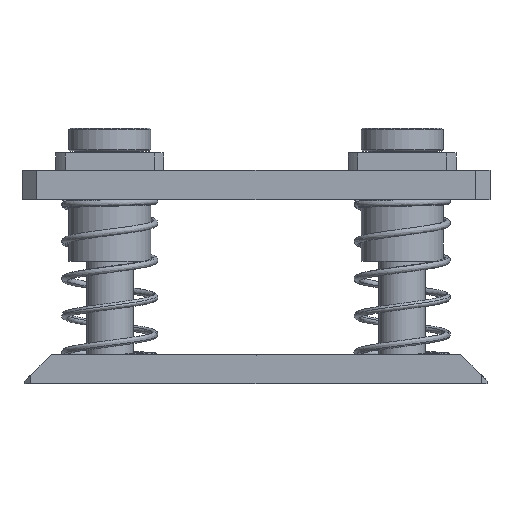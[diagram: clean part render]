
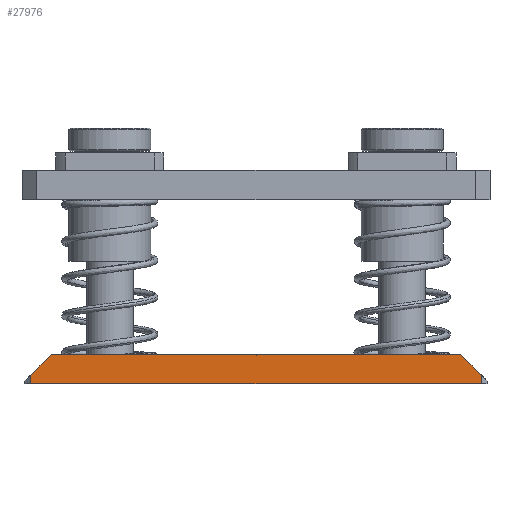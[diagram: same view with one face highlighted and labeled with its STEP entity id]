
A CAD part, front view. The second image highlights one B-rep face of the part: STEP entity #27976.
In plain terms, the highlighted planar face has unit normal (0, -1, 0).
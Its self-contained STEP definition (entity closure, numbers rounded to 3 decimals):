
#950 = VECTOR ( 'NONE', #17672, 1000. ) ;
#2446 = VERTEX_POINT ( 'NONE', #16059 ) ;
#2613 = CARTESIAN_POINT ( 'NONE',  ( 0., -80., 0. ) ) ;
#3821 = DIRECTION ( 'NONE',  ( -1., 0., 0. ) ) ;
#5087 = CARTESIAN_POINT ( 'NONE',  ( 77., -80., 0. ) ) ;
#5350 = ORIENTED_EDGE ( 'NONE', *, *, #33107, .F. ) ;
#5747 = CARTESIAN_POINT ( 'NONE',  ( 77., -80., -5. ) ) ;
#6391 = LINE ( 'NONE', #38377, #25521 ) ;
#6949 = LINE ( 'NONE', #7633, #36255 ) ;
#7521 = VECTOR ( 'NONE', #10820, 1000. ) ;
#7564 = EDGE_CURVE ( 'NONE', #14483, #41383, #6949, .T. ) ;
#7633 = CARTESIAN_POINT ( 'NONE',  ( -70., -80., 0. ) ) ;
#7793 = ORIENTED_EDGE ( 'NONE', *, *, #48084, .T. ) ;
#7812 = ORIENTED_EDGE ( 'NONE', *, *, #7564, .T. ) ;
#8920 = DIRECTION ( 'NONE',  ( 0., -1., 0. ) ) ;
#9248 = CARTESIAN_POINT ( 'NONE',  ( -0.075, -80., -0.075 ) ) ;
#9594 = DIRECTION ( 'NONE',  ( 0., 0., 1. ) ) ;
#9794 = EDGE_CURVE ( 'NONE', #15543, #18309, #30643, .T. ) ;
#10820 = DIRECTION ( 'NONE',  ( -0.707, 0., 0.707 ) ) ;
#11111 = LINE ( 'NONE', #14284, #49383 ) ;
#14284 = CARTESIAN_POINT ( 'NONE',  ( 0., -80., 0. ) ) ;
#14483 = VERTEX_POINT ( 'NONE', #16869 ) ;
#14868 = CARTESIAN_POINT ( 'NONE',  ( -0.15, -80., 0. ) ) ;
#15543 = VERTEX_POINT ( 'NONE', #15577 ) ;
#15577 = CARTESIAN_POINT ( 'NONE',  ( 77., -80., -10. ) ) ;
#16059 = CARTESIAN_POINT ( 'NONE',  ( 70., -80., 0. ) ) ;
#16548 = VECTOR ( 'NONE', #22867, 1000. ) ;
#16721 = CARTESIAN_POINT ( 'NONE',  ( -77., -80., -10. ) ) ;
#16869 = CARTESIAN_POINT ( 'NONE',  ( -70., -80., 0. ) ) ;
#17046 = ORIENTED_EDGE ( 'NONE', *, *, #18769, .F. ) ;
#17672 = DIRECTION ( 'NONE',  ( -1., 0., 0. ) ) ;
#17765 = LINE ( 'NONE', #49626, #16548 ) ;
#18309 = VERTEX_POINT ( 'NONE', #18612 ) ;
#18612 = CARTESIAN_POINT ( 'NONE',  ( 77., -80., -7. ) ) ;
#18769 = EDGE_CURVE ( 'NONE', #21783, #46020, #19587, .T. ) ;
#19587 = LINE ( 'NONE', #9248, #41138 ) ;
#20502 = VECTOR ( 'NONE', #9594, 1000. ) ;
#21783 = VERTEX_POINT ( 'NONE', #14868 ) ;
#22867 = DIRECTION ( 'NONE',  ( 0., 0., 1. ) ) ;
#25476 = LINE ( 'NONE', #37545, #7521 ) ;
#25521 = VECTOR ( 'NONE', #42268, 1000. ) ;
#26920 = CARTESIAN_POINT ( 'NONE',  ( 0.15, -80., 0. ) ) ;
#26997 = ORIENTED_EDGE ( 'NONE', *, *, #40482, .T. ) ;
#27550 = ORIENTED_EDGE ( 'NONE', *, *, #9794, .T. ) ;
#27789 = CARTESIAN_POINT ( 'NONE',  ( -77., -80., -7. ) ) ;
#27955 = PLANE ( 'NONE',  #38434 ) ;
#27976 = ADVANCED_FACE ( 'NONE', ( #43022 ), #27955, .T. ) ;
#29783 = ORIENTED_EDGE ( 'NONE', *, *, #39460, .F. ) ;
#30047 = EDGE_LOOP ( 'NONE', ( #39812, #26997, #32074, #17046, #7793, #7812, #29783, #5350, #27550 ) ) ;
#30643 = LINE ( 'NONE', #5747, #20502 ) ;
#31075 = CARTESIAN_POINT ( 'NONE',  ( 0., -80., -0.15 ) ) ;
#31417 = EDGE_CURVE ( 'NONE', #18309, #2446, #25476, .T. ) ;
#32074 = ORIENTED_EDGE ( 'NONE', *, *, #39478, .F. ) ;
#32682 = LINE ( 'NONE', #2613, #950 ) ;
#33107 = EDGE_CURVE ( 'NONE', #15543, #45048, #48748, .T. ) ;
#35650 = DIRECTION ( 'NONE',  ( -1., 0., 0. ) ) ;
#35975 = DIRECTION ( 'NONE',  ( 0.707, 0., -0.707 ) ) ;
#36255 = VECTOR ( 'NONE', #45771, 1000. ) ;
#37545 = CARTESIAN_POINT ( 'NONE',  ( 77., -80., -7. ) ) ;
#38377 = CARTESIAN_POINT ( 'NONE',  ( 0.075, -80., -0.075 ) ) ;
#38434 = AXIS2_PLACEMENT_3D ( 'NONE', #5087, #8920, #35650 ) ;
#38525 = VECTOR ( 'NONE', #3821, 1000. ) ;
#39460 = EDGE_CURVE ( 'NONE', #45048, #41383, #17765, .T. ) ;
#39478 = EDGE_CURVE ( 'NONE', #46020, #48560, #6391, .T. ) ;
#39812 = ORIENTED_EDGE ( 'NONE', *, *, #31417, .T. ) ;
#40482 = EDGE_CURVE ( 'NONE', #2446, #48560, #32682, .T. ) ;
#41138 = VECTOR ( 'NONE', #35975, 1000. ) ;
#41383 = VERTEX_POINT ( 'NONE', #27789 ) ;
#41942 = CARTESIAN_POINT ( 'NONE',  ( 0., -80., -10. ) ) ;
#42268 = DIRECTION ( 'NONE',  ( 0.707, 0., 0.707 ) ) ;
#43022 = FACE_OUTER_BOUND ( 'NONE', #30047, .T. ) ;
#44889 = DIRECTION ( 'NONE',  ( -1., 0., 0. ) ) ;
#45048 = VERTEX_POINT ( 'NONE', #16721 ) ;
#45771 = DIRECTION ( 'NONE',  ( -0.707, 0., -0.707 ) ) ;
#46020 = VERTEX_POINT ( 'NONE', #31075 ) ;
#48084 = EDGE_CURVE ( 'NONE', #21783, #14483, #11111, .T. ) ;
#48560 = VERTEX_POINT ( 'NONE', #26920 ) ;
#48748 = LINE ( 'NONE', #41942, #38525 ) ;
#49383 = VECTOR ( 'NONE', #44889, 1000. ) ;
#49626 = CARTESIAN_POINT ( 'NONE',  ( -77., -80., -8.491 ) ) ;
